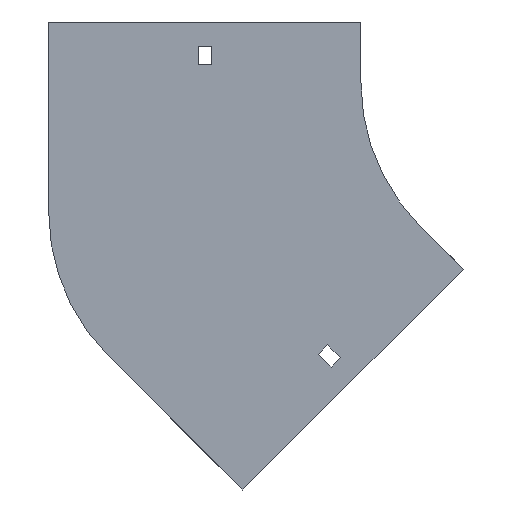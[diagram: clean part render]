
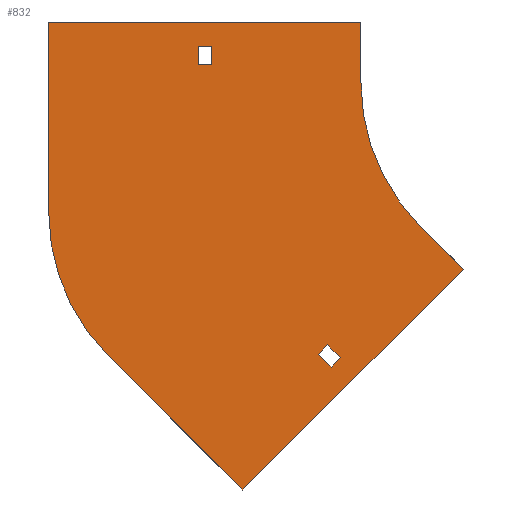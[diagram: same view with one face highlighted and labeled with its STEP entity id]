
A CAD part, front view. The second image highlights one B-rep face of the part: STEP entity #832.
In plain terms, the highlighted planar face has unit normal (0, -1, 0).
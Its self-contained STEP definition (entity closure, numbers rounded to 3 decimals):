
#8 = VERTEX_POINT ( 'NONE', #603 ) ;
#12 = VECTOR ( 'NONE', #1342, 1000. ) ;
#31 = AXIS2_PLACEMENT_3D ( 'NONE', #410, #960, #73 ) ;
#33 = ORIENTED_EDGE ( 'NONE', *, *, #389, .F. ) ;
#40 = CARTESIAN_POINT ( 'NONE',  ( -116.496, 0., -129.224 ) ) ;
#64 = LINE ( 'NONE', #942, #716 ) ;
#73 = DIRECTION ( 'NONE',  ( 0., 0., -1. ) ) ;
#80 = CARTESIAN_POINT ( 'NONE',  ( -158.392, 0., -200.818 ) ) ;
#90 = VERTEX_POINT ( 'NONE', #857 ) ;
#97 = VECTOR ( 'NONE', #229, 1000. ) ;
#107 = DIRECTION ( 'NONE',  ( 0., -1., 0. ) ) ;
#119 = ORIENTED_EDGE ( 'NONE', *, *, #464, .F. ) ;
#151 = CARTESIAN_POINT ( 'NONE',  ( -116.496, 0., -129.224 ) ) ;
#153 = EDGE_CURVE ( 'NONE', #235, #577, #393, .T. ) ;
#188 = CARTESIAN_POINT ( 'NONE',  ( -121.092, 0., -133.82 ) ) ;
#209 = EDGE_CURVE ( 'NONE', #876, #591, #711, .T. ) ;
#227 = EDGE_LOOP ( 'NONE', ( #1252, #985, #710, #314 ) ) ;
#229 = DIRECTION ( 'NONE',  ( 0., 0., 1. ) ) ;
#235 = VERTEX_POINT ( 'NONE', #607 ) ;
#250 = CARTESIAN_POINT ( 'NONE',  ( -180.25, 0., 18. ) ) ;
#253 = ORIENTED_EDGE ( 'NONE', *, *, #654, .F. ) ;
#268 = ORIENTED_EDGE ( 'NONE', *, *, #1059, .F. ) ;
#274 = VECTOR ( 'NONE', #330, 1000. ) ;
#282 = CIRCLE ( 'NONE', #432, 100. ) ;
#286 = CARTESIAN_POINT ( 'NONE',  ( -180.25, 0., 9. ) ) ;
#299 = CARTESIAN_POINT ( 'NONE',  ( -100., 0., 30. ) ) ;
#306 = FACE_OUTER_BOUND ( 'NONE', #341, .T. ) ;
#314 = ORIENTED_EDGE ( 'NONE', *, *, #1026, .T. ) ;
#323 = EDGE_CURVE ( 'NONE', #872, #649, #414, .T. ) ;
#330 = DIRECTION ( 'NONE',  ( -0.707, 0., 0.707 ) ) ;
#334 = VECTOR ( 'NONE', #1002, 1000. ) ;
#335 = DIRECTION ( 'NONE',  ( 0., 0., -1. ) ) ;
#341 = EDGE_LOOP ( 'NONE', ( #559, #890, #33, #379, #1096, #1292, #253, #268 ) ) ;
#345 = VECTOR ( 'NONE', #623, 1000. ) ;
#347 = CARTESIAN_POINT ( 'NONE',  ( -158.392, 0., -200.818 ) ) ;
#362 = DIRECTION ( 'NONE',  ( -0.707, 0., -0.707 ) ) ;
#374 = VERTEX_POINT ( 'NONE', #536 ) ;
#379 = ORIENTED_EDGE ( 'NONE', *, *, #867, .F. ) ;
#389 = EDGE_CURVE ( 'NONE', #1209, #90, #395, .T. ) ;
#390 = CARTESIAN_POINT ( 'NONE',  ( -180.25, 0., 9. ) ) ;
#393 = LINE ( 'NONE', #1146, #12 ) ;
#395 = CIRCLE ( 'NONE', #540, 100. ) ;
#400 = DIRECTION ( 'NONE',  ( -1., 0., 0. ) ) ;
#410 = CARTESIAN_POINT ( 'NONE',  ( 0., 0., 0. ) ) ;
#413 = CARTESIAN_POINT ( 'NONE',  ( -49.497, 0., -91.924 ) ) ;
#414 = LINE ( 'NONE', #286, #345 ) ;
#432 = AXIS2_PLACEMENT_3D ( 'NONE', #542, #107, #335 ) ;
#438 = VERTEX_POINT ( 'NONE', #566 ) ;
#440 = LINE ( 'NONE', #545, #533 ) ;
#448 = CARTESIAN_POINT ( 'NONE',  ( -254., 0., -63.789 ) ) ;
#457 = VECTOR ( 'NONE', #362, 1000. ) ;
#464 = EDGE_CURVE ( 'NONE', #591, #1022, #804, .T. ) ;
#467 = DIRECTION ( 'NONE',  ( 0.707, 0., 0.707 ) ) ;
#470 = VECTOR ( 'NONE', #400, 1000. ) ;
#494 = CARTESIAN_POINT ( 'NONE',  ( -70.711, 0., -70.711 ) ) ;
#530 = VECTOR ( 'NONE', #1062, 1000. ) ;
#533 = VECTOR ( 'NONE', #467, 1000. ) ;
#536 = CARTESIAN_POINT ( 'NONE',  ( -70.711, 0., -70.711 ) ) ;
#537 = CARTESIAN_POINT ( 'NONE',  ( -224.711, 0., -134.5 ) ) ;
#540 = AXIS2_PLACEMENT_3D ( 'NONE', #1083, #979, #1299 ) ;
#542 = CARTESIAN_POINT ( 'NONE',  ( 0., 0., 0. ) ) ;
#545 = CARTESIAN_POINT ( 'NONE',  ( -114.728, 0., -140.184 ) ) ;
#558 = LINE ( 'NONE', #250, #334 ) ;
#559 = ORIENTED_EDGE ( 'NONE', *, *, #1039, .F. ) ;
#566 = CARTESIAN_POINT ( 'NONE',  ( -254., 0., 30. ) ) ;
#577 = VERTEX_POINT ( 'NONE', #792 ) ;
#591 = VERTEX_POINT ( 'NONE', #151 ) ;
#603 = CARTESIAN_POINT ( 'NONE',  ( -100., 0., 30. ) ) ;
#607 = CARTESIAN_POINT ( 'NONE',  ( -173.75, 0., 18. ) ) ;
#620 = CARTESIAN_POINT ( 'NONE',  ( -110.132, 0., -135.588 ) ) ;
#623 = DIRECTION ( 'NONE',  ( 0., 0., 1. ) ) ;
#647 = EDGE_LOOP ( 'NONE', ( #975, #1348, #119, #1194 ) ) ;
#649 = VERTEX_POINT ( 'NONE', #987 ) ;
#654 = EDGE_CURVE ( 'NONE', #863, #374, #282, .T. ) ;
#664 = EDGE_CURVE ( 'NONE', #90, #438, #1206, .T. ) ;
#673 = VERTEX_POINT ( 'NONE', #1213 ) ;
#710 = ORIENTED_EDGE ( 'NONE', *, *, #153, .T. ) ;
#711 = LINE ( 'NONE', #40, #941 ) ;
#716 = VECTOR ( 'NONE', #1142, 1000. ) ;
#736 = EDGE_CURVE ( 'NONE', #374, #673, #1145, .T. ) ;
#760 = CARTESIAN_POINT ( 'NONE',  ( -180.25, 0., 9. ) ) ;
#792 = CARTESIAN_POINT ( 'NONE',  ( -173.75, 0., 9. ) ) ;
#804 = LINE ( 'NONE', #1324, #457 ) ;
#832 = ADVANCED_FACE ( 'NONE', ( #1387, #306, #866 ), #858, .T. ) ;
#838 = VECTOR ( 'NONE', #1362, 1000. ) ;
#839 = LINE ( 'NONE', #299, #838 ) ;
#857 = CARTESIAN_POINT ( 'NONE',  ( -254., 0., -63.789 ) ) ;
#858 = PLANE ( 'NONE',  #31 ) ;
#863 = VERTEX_POINT ( 'NONE', #1294 ) ;
#866 = FACE_BOUND ( 'NONE', #647, .T. ) ;
#867 = EDGE_CURVE ( 'NONE', #1316, #1209, #1069, .T. ) ;
#872 = VERTEX_POINT ( 'NONE', #760 ) ;
#876 = VERTEX_POINT ( 'NONE', #620 ) ;
#888 = VECTOR ( 'NONE', #1153, 1000. ) ;
#890 = ORIENTED_EDGE ( 'NONE', *, *, #664, .F. ) ;
#941 = VECTOR ( 'NONE', #1372, 1000. ) ;
#942 = CARTESIAN_POINT ( 'NONE',  ( -254., 0., 30. ) ) ;
#956 = EDGE_CURVE ( 'NONE', #649, #235, #558, .T. ) ;
#960 = DIRECTION ( 'NONE',  ( 0., -1., 0. ) ) ;
#975 = ORIENTED_EDGE ( 'NONE', *, *, #1325, .F. ) ;
#979 = DIRECTION ( 'NONE',  ( 0., 1., 0. ) ) ;
#985 = ORIENTED_EDGE ( 'NONE', *, *, #956, .T. ) ;
#987 = CARTESIAN_POINT ( 'NONE',  ( -180.25, 0., 18. ) ) ;
#989 = CARTESIAN_POINT ( 'NONE',  ( -114.728, 0., -140.184 ) ) ;
#1002 = DIRECTION ( 'NONE',  ( 1., 0., 0. ) ) ;
#1022 = VERTEX_POINT ( 'NONE', #188 ) ;
#1026 = EDGE_CURVE ( 'NONE', #577, #872, #1035, .T. ) ;
#1035 = LINE ( 'NONE', #390, #470 ) ;
#1039 = EDGE_CURVE ( 'NONE', #438, #8, #64, .T. ) ;
#1054 = LINE ( 'NONE', #1163, #1171 ) ;
#1059 = EDGE_CURVE ( 'NONE', #8, #863, #839, .T. ) ;
#1062 = DIRECTION ( 'NONE',  ( -0.707, 0., -0.707 ) ) ;
#1067 = LINE ( 'NONE', #413, #530 ) ;
#1069 = LINE ( 'NONE', #80, #274 ) ;
#1083 = CARTESIAN_POINT ( 'NONE',  ( -154., 0., -63.789 ) ) ;
#1096 = ORIENTED_EDGE ( 'NONE', *, *, #1196, .F. ) ;
#1142 = DIRECTION ( 'NONE',  ( 1., 0., 0. ) ) ;
#1145 = LINE ( 'NONE', #494, #888 ) ;
#1146 = CARTESIAN_POINT ( 'NONE',  ( -173.75, 0., 9. ) ) ;
#1153 = DIRECTION ( 'NONE',  ( 0.707, 0., -0.707 ) ) ;
#1163 = CARTESIAN_POINT ( 'NONE',  ( -121.092, 0., -133.82 ) ) ;
#1171 = VECTOR ( 'NONE', #1376, 1000. ) ;
#1194 = ORIENTED_EDGE ( 'NONE', *, *, #209, .F. ) ;
#1196 = EDGE_CURVE ( 'NONE', #673, #1316, #1067, .T. ) ;
#1206 = LINE ( 'NONE', #448, #97 ) ;
#1209 = VERTEX_POINT ( 'NONE', #537 ) ;
#1213 = CARTESIAN_POINT ( 'NONE',  ( -49.497, 0., -91.924 ) ) ;
#1252 = ORIENTED_EDGE ( 'NONE', *, *, #323, .T. ) ;
#1292 = ORIENTED_EDGE ( 'NONE', *, *, #736, .F. ) ;
#1294 = CARTESIAN_POINT ( 'NONE',  ( -100., 0., 0. ) ) ;
#1299 = DIRECTION ( 'NONE',  ( 0., 0., 1. ) ) ;
#1316 = VERTEX_POINT ( 'NONE', #347 ) ;
#1324 = CARTESIAN_POINT ( 'NONE',  ( -121.092, 0., -133.82 ) ) ;
#1325 = EDGE_CURVE ( 'NONE', #1328, #876, #440, .T. ) ;
#1328 = VERTEX_POINT ( 'NONE', #989 ) ;
#1342 = DIRECTION ( 'NONE',  ( 0., 0., -1. ) ) ;
#1348 = ORIENTED_EDGE ( 'NONE', *, *, #1390, .F. ) ;
#1362 = DIRECTION ( 'NONE',  ( 0., 0., -1. ) ) ;
#1372 = DIRECTION ( 'NONE',  ( -0.707, 0., 0.707 ) ) ;
#1376 = DIRECTION ( 'NONE',  ( 0.707, 0., -0.707 ) ) ;
#1387 = FACE_BOUND ( 'NONE', #227, .T. ) ;
#1390 = EDGE_CURVE ( 'NONE', #1022, #1328, #1054, .T. ) ;
